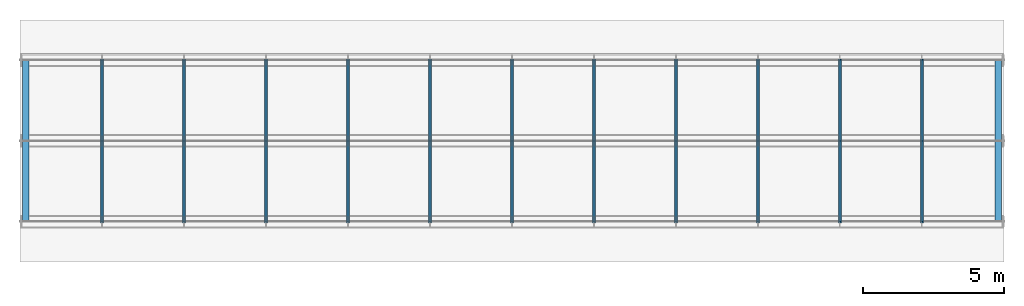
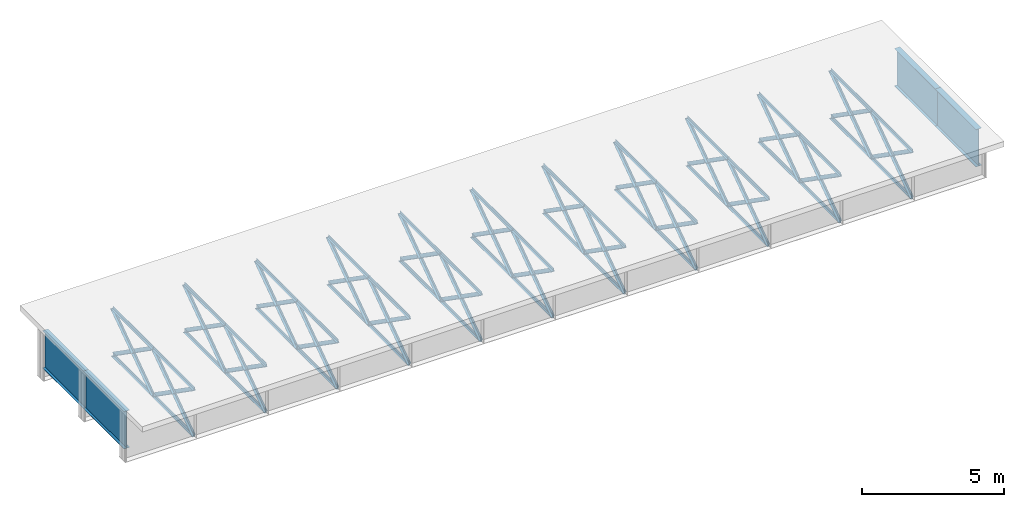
# One storey, part 1 of 11: 92 members.
"""IFC4 building model written with IfcOpenShell, lengths in metres."""

from ifc_helpers import new_model, si_unit, frame, origin, origin_with_axes, origin_2d_with_axis, place, context, subcontext, project, spatial, i_section, l_section, extrude, element, save


model = new_model("IFC4")

# Units and contexts
model_context = context("Model", 3, precision=1e-05, world=origin())
body_context = subcontext(model_context, "Body", "Model", "MODEL_VIEW")
ifc_project = project(units=[si_unit("LENGTHUNIT", "METRE"), si_unit("AREAUNIT", "SQUARE_METRE"), si_unit("VOLUMEUNIT", "CUBIC_METRE"), si_unit("PLANEANGLEUNIT", "RADIAN")], contexts=[model_context])

# Site, building, storey
site_placement = place(None, origin_with_axes())
site = spatial("IfcSite", under=ifc_project, at=site_placement, Name="Default Site")
building_placement = place(site_placement, origin_with_axes())
building = spatial("IfcBuilding", under=site, at=building_placement, Name="Bridge Structure")
storey_placement = place(building_placement, origin_with_axes())
storey = spatial("IfcBuildingStorey", under=building, at=storey_placement, Name="Superstructure")

# Members
for number, where, z_axis, x_axis, name in (
    (1, (0.2, -2.875, 0.2009999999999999), (0.0, 1.0, 0.0), (-1.0, 0.0, 0.0), "End Diaphragm"),
    (2, (0.2, 0.0, 0.2009999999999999), (0.0, 1.0, 0.0), (-1.0, 0.0, 0.0), "End Diaphragm"),
):
    element("IfcMember", number, at=place(storey_placement, frame(where, z_axis=z_axis, x_axis=x_axis)), inside=storey, Name=name, context=body_context, shape_type="SweptSolid", body=[
        extrude(i_section(OverallWidth=0.225, OverallDepth=1.608, WebThickness=0.018000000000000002, FlangeThickness=0.012, at=origin_2d_with_axis()), origin_with_axes(), (0.0, 0.0, 1.0), 2.875),
    ])
for number, where, z_axis, x_axis, name in (
    (3, (2.9166666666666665, -2.875, 1.005), (0.0, 0.8195665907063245, -0.5729839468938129), (-1.0, 0.0, 0.0), "Diagonal Brace"),
    (4, (2.9166666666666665, -2.875, -1.005), (0.0, 0.8195665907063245, 0.5729839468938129), (-1.0, 0.0, 0.0), "Diagonal Brace"),
):
    element("IfcMember", number, at=place(storey_placement, frame(where, z_axis=z_axis, x_axis=x_axis)), inside=storey, Name=name, context=body_context, shape_type="SweptSolid", body=[
        extrude(l_section(Depth=0.15, Width=0.1, Thickness=0.008, at=origin_2d_with_axis()), origin_with_axes(), (0.0, 0.0, 1.0), 3.5079516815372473),
    ])
for number, where, z_axis, x_axis, name in (
    (5, (2.9166666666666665, -2.875, -1.005), (0.0, 1.0, 0.0), (-1.0, 0.0, 0.0), "Bottom Chord"),
    (6, (2.9166666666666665, -2.875, 1.005), (0.0, 1.0, 0.0), (-1.0, 0.0, 0.0), "Top Chord"),
):
    element("IfcMember", number, at=place(storey_placement, frame(where, z_axis=z_axis, x_axis=x_axis)), inside=storey, Name=name, context=body_context, shape_type="SweptSolid", body=[
        extrude(l_section(Depth=0.13, Width=0.08, Thickness=0.008, at=origin_2d_with_axis()), origin_with_axes(), (0.0, 0.0, 1.0), 2.875),
    ])
for number, where, z_axis, x_axis, name in (
    (7, (2.9166666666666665, 0.0, 1.005), (0.0, 0.8195665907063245, -0.5729839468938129), (-1.0, 0.0, 0.0), "Diagonal Brace"),
    (8, (2.9166666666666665, 0.0, -1.005), (0.0, 0.8195665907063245, 0.5729839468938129), (-1.0, 0.0, 0.0), "Diagonal Brace"),
):
    element("IfcMember", number, at=place(storey_placement, frame(where, z_axis=z_axis, x_axis=x_axis)), inside=storey, Name=name, context=body_context, shape_type="SweptSolid", body=[
        extrude(l_section(Depth=0.15, Width=0.1, Thickness=0.008, at=origin_2d_with_axis()), origin_with_axes(), (0.0, 0.0, 1.0), 3.5079516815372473),
    ])
for number, where, z_axis, x_axis, name in (
    (9, (2.9166666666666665, 0.0, -1.005), (0.0, 1.0, 0.0), (-1.0, 0.0, 0.0), "Bottom Chord"),
    (10, (2.9166666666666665, 0.0, 1.005), (0.0, 1.0, 0.0), (-1.0, 0.0, 0.0), "Top Chord"),
):
    element("IfcMember", number, at=place(storey_placement, frame(where, z_axis=z_axis, x_axis=x_axis)), inside=storey, Name=name, context=body_context, shape_type="SweptSolid", body=[
        extrude(l_section(Depth=0.13, Width=0.08, Thickness=0.008, at=origin_2d_with_axis()), origin_with_axes(), (0.0, 0.0, 1.0), 2.875),
    ])
for number, where, z_axis, x_axis, name in (
    (11, (5.833333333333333, -2.875, 1.005), (0.0, 0.8195665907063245, -0.5729839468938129), (-1.0, 0.0, 0.0), "Diagonal Brace"),
    (12, (5.833333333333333, -2.875, -1.005), (0.0, 0.8195665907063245, 0.5729839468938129), (-1.0, 0.0, 0.0), "Diagonal Brace"),
):
    element("IfcMember", number, at=place(storey_placement, frame(where, z_axis=z_axis, x_axis=x_axis)), inside=storey, Name=name, context=body_context, shape_type="SweptSolid", body=[
        extrude(l_section(Depth=0.15, Width=0.1, Thickness=0.008, at=origin_2d_with_axis()), origin_with_axes(), (0.0, 0.0, 1.0), 3.5079516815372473),
    ])
for number, where, z_axis, x_axis, name in (
    (13, (5.833333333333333, -2.875, -1.005), (0.0, 1.0, 0.0), (-1.0, 0.0, 0.0), "Bottom Chord"),
    (14, (5.833333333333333, -2.875, 1.005), (0.0, 1.0, 0.0), (-1.0, 0.0, 0.0), "Top Chord"),
):
    element("IfcMember", number, at=place(storey_placement, frame(where, z_axis=z_axis, x_axis=x_axis)), inside=storey, Name=name, context=body_context, shape_type="SweptSolid", body=[
        extrude(l_section(Depth=0.13, Width=0.08, Thickness=0.008, at=origin_2d_with_axis()), origin_with_axes(), (0.0, 0.0, 1.0), 2.875),
    ])
for number, where, z_axis, x_axis, name in (
    (15, (5.833333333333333, 0.0, 1.005), (0.0, 0.8195665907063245, -0.5729839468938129), (-1.0, 0.0, 0.0), "Diagonal Brace"),
    (16, (5.833333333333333, 0.0, -1.005), (0.0, 0.8195665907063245, 0.5729839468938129), (-1.0, 0.0, 0.0), "Diagonal Brace"),
):
    element("IfcMember", number, at=place(storey_placement, frame(where, z_axis=z_axis, x_axis=x_axis)), inside=storey, Name=name, context=body_context, shape_type="SweptSolid", body=[
        extrude(l_section(Depth=0.15, Width=0.1, Thickness=0.008, at=origin_2d_with_axis()), origin_with_axes(), (0.0, 0.0, 1.0), 3.5079516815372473),
    ])
for number, where, z_axis, x_axis, name in (
    (17, (5.833333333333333, 0.0, -1.005), (0.0, 1.0, 0.0), (-1.0, 0.0, 0.0), "Bottom Chord"),
    (18, (5.833333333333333, 0.0, 1.005), (0.0, 1.0, 0.0), (-1.0, 0.0, 0.0), "Top Chord"),
):
    element("IfcMember", number, at=place(storey_placement, frame(where, z_axis=z_axis, x_axis=x_axis)), inside=storey, Name=name, context=body_context, shape_type="SweptSolid", body=[
        extrude(l_section(Depth=0.13, Width=0.08, Thickness=0.008, at=origin_2d_with_axis()), origin_with_axes(), (0.0, 0.0, 1.0), 2.875),
    ])
for number, where, z_axis, x_axis, name in (
    (19, (8.75, -2.875, 1.005), (0.0, 0.8195665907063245, -0.5729839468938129), (-1.0, 0.0, 0.0), "Diagonal Brace"),
    (20, (8.75, -2.875, -1.005), (0.0, 0.8195665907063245, 0.5729839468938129), (-1.0, 0.0, 0.0), "Diagonal Brace"),
):
    element("IfcMember", number, at=place(storey_placement, frame(where, z_axis=z_axis, x_axis=x_axis)), inside=storey, Name=name, context=body_context, shape_type="SweptSolid", body=[
        extrude(l_section(Depth=0.15, Width=0.1, Thickness=0.008, at=origin_2d_with_axis()), origin_with_axes(), (0.0, 0.0, 1.0), 3.5079516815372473),
    ])
for number, where, z_axis, x_axis, name in (
    (21, (8.75, -2.875, -1.005), (0.0, 1.0, 0.0), (-1.0, 0.0, 0.0), "Bottom Chord"),
    (22, (8.75, -2.875, 1.005), (0.0, 1.0, 0.0), (-1.0, 0.0, 0.0), "Top Chord"),
):
    element("IfcMember", number, at=place(storey_placement, frame(where, z_axis=z_axis, x_axis=x_axis)), inside=storey, Name=name, context=body_context, shape_type="SweptSolid", body=[
        extrude(l_section(Depth=0.13, Width=0.08, Thickness=0.008, at=origin_2d_with_axis()), origin_with_axes(), (0.0, 0.0, 1.0), 2.875),
    ])
for number, where, z_axis, x_axis, name in (
    (23, (8.75, 0.0, 1.005), (0.0, 0.8195665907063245, -0.5729839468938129), (-1.0, 0.0, 0.0), "Diagonal Brace"),
    (24, (8.75, 0.0, -1.005), (0.0, 0.8195665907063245, 0.5729839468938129), (-1.0, 0.0, 0.0), "Diagonal Brace"),
):
    element("IfcMember", number, at=place(storey_placement, frame(where, z_axis=z_axis, x_axis=x_axis)), inside=storey, Name=name, context=body_context, shape_type="SweptSolid", body=[
        extrude(l_section(Depth=0.15, Width=0.1, Thickness=0.008, at=origin_2d_with_axis()), origin_with_axes(), (0.0, 0.0, 1.0), 3.5079516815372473),
    ])
for number, where, z_axis, x_axis, name in (
    (25, (8.75, 0.0, -1.005), (0.0, 1.0, 0.0), (-1.0, 0.0, 0.0), "Bottom Chord"),
    (26, (8.75, 0.0, 1.005), (0.0, 1.0, 0.0), (-1.0, 0.0, 0.0), "Top Chord"),
):
    element("IfcMember", number, at=place(storey_placement, frame(where, z_axis=z_axis, x_axis=x_axis)), inside=storey, Name=name, context=body_context, shape_type="SweptSolid", body=[
        extrude(l_section(Depth=0.13, Width=0.08, Thickness=0.008, at=origin_2d_with_axis()), origin_with_axes(), (0.0, 0.0, 1.0), 2.875),
    ])
for number, where, z_axis, x_axis, name in (
    (27, (11.666666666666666, -2.875, 1.005), (0.0, 0.8195665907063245, -0.5729839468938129), (-1.0, 0.0, 0.0), "Diagonal Brace"),
    (28, (11.666666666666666, -2.875, -1.005), (0.0, 0.8195665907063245, 0.5729839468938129), (-1.0, 0.0, 0.0), "Diagonal Brace"),
):
    element("IfcMember", number, at=place(storey_placement, frame(where, z_axis=z_axis, x_axis=x_axis)), inside=storey, Name=name, context=body_context, shape_type="SweptSolid", body=[
        extrude(l_section(Depth=0.15, Width=0.1, Thickness=0.008, at=origin_2d_with_axis()), origin_with_axes(), (0.0, 0.0, 1.0), 3.5079516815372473),
    ])
for number, where, z_axis, x_axis, name in (
    (29, (11.666666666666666, -2.875, -1.005), (0.0, 1.0, 0.0), (-1.0, 0.0, 0.0), "Bottom Chord"),
    (30, (11.666666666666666, -2.875, 1.005), (0.0, 1.0, 0.0), (-1.0, 0.0, 0.0), "Top Chord"),
):
    element("IfcMember", number, at=place(storey_placement, frame(where, z_axis=z_axis, x_axis=x_axis)), inside=storey, Name=name, context=body_context, shape_type="SweptSolid", body=[
        extrude(l_section(Depth=0.13, Width=0.08, Thickness=0.008, at=origin_2d_with_axis()), origin_with_axes(), (0.0, 0.0, 1.0), 2.875),
    ])
for number, where, z_axis, x_axis, name in (
    (31, (11.666666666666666, 0.0, 1.005), (0.0, 0.8195665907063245, -0.5729839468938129), (-1.0, 0.0, 0.0), "Diagonal Brace"),
    (32, (11.666666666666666, 0.0, -1.005), (0.0, 0.8195665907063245, 0.5729839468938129), (-1.0, 0.0, 0.0), "Diagonal Brace"),
):
    element("IfcMember", number, at=place(storey_placement, frame(where, z_axis=z_axis, x_axis=x_axis)), inside=storey, Name=name, context=body_context, shape_type="SweptSolid", body=[
        extrude(l_section(Depth=0.15, Width=0.1, Thickness=0.008, at=origin_2d_with_axis()), origin_with_axes(), (0.0, 0.0, 1.0), 3.5079516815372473),
    ])
for number, where, z_axis, x_axis, name in (
    (33, (11.666666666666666, 0.0, -1.005), (0.0, 1.0, 0.0), (-1.0, 0.0, 0.0), "Bottom Chord"),
    (34, (11.666666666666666, 0.0, 1.005), (0.0, 1.0, 0.0), (-1.0, 0.0, 0.0), "Top Chord"),
):
    element("IfcMember", number, at=place(storey_placement, frame(where, z_axis=z_axis, x_axis=x_axis)), inside=storey, Name=name, context=body_context, shape_type="SweptSolid", body=[
        extrude(l_section(Depth=0.13, Width=0.08, Thickness=0.008, at=origin_2d_with_axis()), origin_with_axes(), (0.0, 0.0, 1.0), 2.875),
    ])
for number, where, z_axis, x_axis, name in (
    (35, (14.583333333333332, -2.875, 1.005), (0.0, 0.8195665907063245, -0.5729839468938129), (-1.0, 0.0, 0.0), "Diagonal Brace"),
    (36, (14.583333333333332, -2.875, -1.005), (0.0, 0.8195665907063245, 0.5729839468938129), (-1.0, 0.0, 0.0), "Diagonal Brace"),
):
    element("IfcMember", number, at=place(storey_placement, frame(where, z_axis=z_axis, x_axis=x_axis)), inside=storey, Name=name, context=body_context, shape_type="SweptSolid", body=[
        extrude(l_section(Depth=0.15, Width=0.1, Thickness=0.008, at=origin_2d_with_axis()), origin_with_axes(), (0.0, 0.0, 1.0), 3.5079516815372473),
    ])
for number, where, z_axis, x_axis, name in (
    (37, (14.583333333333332, -2.875, -1.005), (0.0, 1.0, 0.0), (-1.0, 0.0, 0.0), "Bottom Chord"),
    (38, (14.583333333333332, -2.875, 1.005), (0.0, 1.0, 0.0), (-1.0, 0.0, 0.0), "Top Chord"),
):
    element("IfcMember", number, at=place(storey_placement, frame(where, z_axis=z_axis, x_axis=x_axis)), inside=storey, Name=name, context=body_context, shape_type="SweptSolid", body=[
        extrude(l_section(Depth=0.13, Width=0.08, Thickness=0.008, at=origin_2d_with_axis()), origin_with_axes(), (0.0, 0.0, 1.0), 2.875),
    ])
for number, where, z_axis, x_axis, name in (
    (39, (14.583333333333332, 0.0, 1.005), (0.0, 0.8195665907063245, -0.5729839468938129), (-1.0, 0.0, 0.0), "Diagonal Brace"),
    (40, (14.583333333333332, 0.0, -1.005), (0.0, 0.8195665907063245, 0.5729839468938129), (-1.0, 0.0, 0.0), "Diagonal Brace"),
):
    element("IfcMember", number, at=place(storey_placement, frame(where, z_axis=z_axis, x_axis=x_axis)), inside=storey, Name=name, context=body_context, shape_type="SweptSolid", body=[
        extrude(l_section(Depth=0.15, Width=0.1, Thickness=0.008, at=origin_2d_with_axis()), origin_with_axes(), (0.0, 0.0, 1.0), 3.5079516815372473),
    ])
for number, where, z_axis, x_axis, name in (
    (41, (14.583333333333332, 0.0, -1.005), (0.0, 1.0, 0.0), (-1.0, 0.0, 0.0), "Bottom Chord"),
    (42, (14.583333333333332, 0.0, 1.005), (0.0, 1.0, 0.0), (-1.0, 0.0, 0.0), "Top Chord"),
):
    element("IfcMember", number, at=place(storey_placement, frame(where, z_axis=z_axis, x_axis=x_axis)), inside=storey, Name=name, context=body_context, shape_type="SweptSolid", body=[
        extrude(l_section(Depth=0.13, Width=0.08, Thickness=0.008, at=origin_2d_with_axis()), origin_with_axes(), (0.0, 0.0, 1.0), 2.875),
    ])
for number, where, z_axis, x_axis, name in (
    (43, (17.5, -2.875, 1.005), (0.0, 0.8195665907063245, -0.5729839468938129), (-1.0, 0.0, 0.0), "Diagonal Brace"),
    (44, (17.5, -2.875, -1.005), (0.0, 0.8195665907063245, 0.5729839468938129), (-1.0, 0.0, 0.0), "Diagonal Brace"),
):
    element("IfcMember", number, at=place(storey_placement, frame(where, z_axis=z_axis, x_axis=x_axis)), inside=storey, Name=name, context=body_context, shape_type="SweptSolid", body=[
        extrude(l_section(Depth=0.15, Width=0.1, Thickness=0.008, at=origin_2d_with_axis()), origin_with_axes(), (0.0, 0.0, 1.0), 3.5079516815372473),
    ])
for number, where, z_axis, x_axis, name in (
    (45, (17.5, -2.875, -1.005), (0.0, 1.0, 0.0), (-1.0, 0.0, 0.0), "Bottom Chord"),
    (46, (17.5, -2.875, 1.005), (0.0, 1.0, 0.0), (-1.0, 0.0, 0.0), "Top Chord"),
):
    element("IfcMember", number, at=place(storey_placement, frame(where, z_axis=z_axis, x_axis=x_axis)), inside=storey, Name=name, context=body_context, shape_type="SweptSolid", body=[
        extrude(l_section(Depth=0.13, Width=0.08, Thickness=0.008, at=origin_2d_with_axis()), origin_with_axes(), (0.0, 0.0, 1.0), 2.875),
    ])
for number, where, z_axis, x_axis, name in (
    (47, (17.5, 0.0, 1.005), (0.0, 0.8195665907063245, -0.5729839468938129), (-1.0, 0.0, 0.0), "Diagonal Brace"),
    (48, (17.5, 0.0, -1.005), (0.0, 0.8195665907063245, 0.5729839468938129), (-1.0, 0.0, 0.0), "Diagonal Brace"),
):
    element("IfcMember", number, at=place(storey_placement, frame(where, z_axis=z_axis, x_axis=x_axis)), inside=storey, Name=name, context=body_context, shape_type="SweptSolid", body=[
        extrude(l_section(Depth=0.15, Width=0.1, Thickness=0.008, at=origin_2d_with_axis()), origin_with_axes(), (0.0, 0.0, 1.0), 3.5079516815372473),
    ])
for number, where, z_axis, x_axis, name in (
    (49, (17.5, 0.0, -1.005), (0.0, 1.0, 0.0), (-1.0, 0.0, 0.0), "Bottom Chord"),
    (50, (17.5, 0.0, 1.005), (0.0, 1.0, 0.0), (-1.0, 0.0, 0.0), "Top Chord"),
):
    element("IfcMember", number, at=place(storey_placement, frame(where, z_axis=z_axis, x_axis=x_axis)), inside=storey, Name=name, context=body_context, shape_type="SweptSolid", body=[
        extrude(l_section(Depth=0.13, Width=0.08, Thickness=0.008, at=origin_2d_with_axis()), origin_with_axes(), (0.0, 0.0, 1.0), 2.875),
    ])
for number, where, z_axis, x_axis, name in (
    (51, (20.416666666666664, -2.875, 1.005), (0.0, 0.8195665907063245, -0.5729839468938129), (-1.0, 0.0, 0.0), "Diagonal Brace"),
    (52, (20.416666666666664, -2.875, -1.005), (0.0, 0.8195665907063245, 0.5729839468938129), (-1.0, 0.0, 0.0), "Diagonal Brace"),
):
    element("IfcMember", number, at=place(storey_placement, frame(where, z_axis=z_axis, x_axis=x_axis)), inside=storey, Name=name, context=body_context, shape_type="SweptSolid", body=[
        extrude(l_section(Depth=0.15, Width=0.1, Thickness=0.008, at=origin_2d_with_axis()), origin_with_axes(), (0.0, 0.0, 1.0), 3.5079516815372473),
    ])
for number, where, z_axis, x_axis, name in (
    (53, (20.416666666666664, -2.875, -1.005), (0.0, 1.0, 0.0), (-1.0, 0.0, 0.0), "Bottom Chord"),
    (54, (20.416666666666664, -2.875, 1.005), (0.0, 1.0, 0.0), (-1.0, 0.0, 0.0), "Top Chord"),
):
    element("IfcMember", number, at=place(storey_placement, frame(where, z_axis=z_axis, x_axis=x_axis)), inside=storey, Name=name, context=body_context, shape_type="SweptSolid", body=[
        extrude(l_section(Depth=0.13, Width=0.08, Thickness=0.008, at=origin_2d_with_axis()), origin_with_axes(), (0.0, 0.0, 1.0), 2.875),
    ])
for number, where, z_axis, x_axis, name in (
    (55, (20.416666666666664, 0.0, 1.005), (0.0, 0.8195665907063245, -0.5729839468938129), (-1.0, 0.0, 0.0), "Diagonal Brace"),
    (56, (20.416666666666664, 0.0, -1.005), (0.0, 0.8195665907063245, 0.5729839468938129), (-1.0, 0.0, 0.0), "Diagonal Brace"),
):
    element("IfcMember", number, at=place(storey_placement, frame(where, z_axis=z_axis, x_axis=x_axis)), inside=storey, Name=name, context=body_context, shape_type="SweptSolid", body=[
        extrude(l_section(Depth=0.15, Width=0.1, Thickness=0.008, at=origin_2d_with_axis()), origin_with_axes(), (0.0, 0.0, 1.0), 3.5079516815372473),
    ])
for number, where, z_axis, x_axis, name in (
    (57, (20.416666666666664, 0.0, -1.005), (0.0, 1.0, 0.0), (-1.0, 0.0, 0.0), "Bottom Chord"),
    (58, (20.416666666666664, 0.0, 1.005), (0.0, 1.0, 0.0), (-1.0, 0.0, 0.0), "Top Chord"),
):
    element("IfcMember", number, at=place(storey_placement, frame(where, z_axis=z_axis, x_axis=x_axis)), inside=storey, Name=name, context=body_context, shape_type="SweptSolid", body=[
        extrude(l_section(Depth=0.13, Width=0.08, Thickness=0.008, at=origin_2d_with_axis()), origin_with_axes(), (0.0, 0.0, 1.0), 2.875),
    ])
for number, where, z_axis, x_axis, name in (
    (59, (23.333333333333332, -2.875, 1.005), (0.0, 0.8195665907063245, -0.5729839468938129), (-1.0, 0.0, 0.0), "Diagonal Brace"),
    (60, (23.333333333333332, -2.875, -1.005), (0.0, 0.8195665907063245, 0.5729839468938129), (-1.0, 0.0, 0.0), "Diagonal Brace"),
):
    element("IfcMember", number, at=place(storey_placement, frame(where, z_axis=z_axis, x_axis=x_axis)), inside=storey, Name=name, context=body_context, shape_type="SweptSolid", body=[
        extrude(l_section(Depth=0.15, Width=0.1, Thickness=0.008, at=origin_2d_with_axis()), origin_with_axes(), (0.0, 0.0, 1.0), 3.5079516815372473),
    ])
for number, where, z_axis, x_axis, name in (
    (61, (23.333333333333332, -2.875, -1.005), (0.0, 1.0, 0.0), (-1.0, 0.0, 0.0), "Bottom Chord"),
    (62, (23.333333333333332, -2.875, 1.005), (0.0, 1.0, 0.0), (-1.0, 0.0, 0.0), "Top Chord"),
):
    element("IfcMember", number, at=place(storey_placement, frame(where, z_axis=z_axis, x_axis=x_axis)), inside=storey, Name=name, context=body_context, shape_type="SweptSolid", body=[
        extrude(l_section(Depth=0.13, Width=0.08, Thickness=0.008, at=origin_2d_with_axis()), origin_with_axes(), (0.0, 0.0, 1.0), 2.875),
    ])
for number, where, z_axis, x_axis, name in (
    (63, (23.333333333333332, 0.0, 1.005), (0.0, 0.8195665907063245, -0.5729839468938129), (-1.0, 0.0, 0.0), "Diagonal Brace"),
    (64, (23.333333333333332, 0.0, -1.005), (0.0, 0.8195665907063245, 0.5729839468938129), (-1.0, 0.0, 0.0), "Diagonal Brace"),
):
    element("IfcMember", number, at=place(storey_placement, frame(where, z_axis=z_axis, x_axis=x_axis)), inside=storey, Name=name, context=body_context, shape_type="SweptSolid", body=[
        extrude(l_section(Depth=0.15, Width=0.1, Thickness=0.008, at=origin_2d_with_axis()), origin_with_axes(), (0.0, 0.0, 1.0), 3.5079516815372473),
    ])
for number, where, z_axis, x_axis, name in (
    (65, (23.333333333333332, 0.0, -1.005), (0.0, 1.0, 0.0), (-1.0, 0.0, 0.0), "Bottom Chord"),
    (66, (23.333333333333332, 0.0, 1.005), (0.0, 1.0, 0.0), (-1.0, 0.0, 0.0), "Top Chord"),
):
    element("IfcMember", number, at=place(storey_placement, frame(where, z_axis=z_axis, x_axis=x_axis)), inside=storey, Name=name, context=body_context, shape_type="SweptSolid", body=[
        extrude(l_section(Depth=0.13, Width=0.08, Thickness=0.008, at=origin_2d_with_axis()), origin_with_axes(), (0.0, 0.0, 1.0), 2.875),
    ])
for number, where, z_axis, x_axis, name in (
    (67, (26.25, -2.875, 1.005), (0.0, 0.8195665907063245, -0.5729839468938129), (-1.0, 0.0, 0.0), "Diagonal Brace"),
    (68, (26.25, -2.875, -1.005), (0.0, 0.8195665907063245, 0.5729839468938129), (-1.0, 0.0, 0.0), "Diagonal Brace"),
):
    element("IfcMember", number, at=place(storey_placement, frame(where, z_axis=z_axis, x_axis=x_axis)), inside=storey, Name=name, context=body_context, shape_type="SweptSolid", body=[
        extrude(l_section(Depth=0.15, Width=0.1, Thickness=0.008, at=origin_2d_with_axis()), origin_with_axes(), (0.0, 0.0, 1.0), 3.5079516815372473),
    ])
for number, where, z_axis, x_axis, name in (
    (69, (26.25, -2.875, -1.005), (0.0, 1.0, 0.0), (-1.0, 0.0, 0.0), "Bottom Chord"),
    (70, (26.25, -2.875, 1.005), (0.0, 1.0, 0.0), (-1.0, 0.0, 0.0), "Top Chord"),
):
    element("IfcMember", number, at=place(storey_placement, frame(where, z_axis=z_axis, x_axis=x_axis)), inside=storey, Name=name, context=body_context, shape_type="SweptSolid", body=[
        extrude(l_section(Depth=0.13, Width=0.08, Thickness=0.008, at=origin_2d_with_axis()), origin_with_axes(), (0.0, 0.0, 1.0), 2.875),
    ])
for number, where, z_axis, x_axis, name in (
    (71, (26.25, 0.0, 1.005), (0.0, 0.8195665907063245, -0.5729839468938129), (-1.0, 0.0, 0.0), "Diagonal Brace"),
    (72, (26.25, 0.0, -1.005), (0.0, 0.8195665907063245, 0.5729839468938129), (-1.0, 0.0, 0.0), "Diagonal Brace"),
):
    element("IfcMember", number, at=place(storey_placement, frame(where, z_axis=z_axis, x_axis=x_axis)), inside=storey, Name=name, context=body_context, shape_type="SweptSolid", body=[
        extrude(l_section(Depth=0.15, Width=0.1, Thickness=0.008, at=origin_2d_with_axis()), origin_with_axes(), (0.0, 0.0, 1.0), 3.5079516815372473),
    ])
for number, where, z_axis, x_axis, name in (
    (73, (26.25, 0.0, -1.005), (0.0, 1.0, 0.0), (-1.0, 0.0, 0.0), "Bottom Chord"),
    (74, (26.25, 0.0, 1.005), (0.0, 1.0, 0.0), (-1.0, 0.0, 0.0), "Top Chord"),
):
    element("IfcMember", number, at=place(storey_placement, frame(where, z_axis=z_axis, x_axis=x_axis)), inside=storey, Name=name, context=body_context, shape_type="SweptSolid", body=[
        extrude(l_section(Depth=0.13, Width=0.08, Thickness=0.008, at=origin_2d_with_axis()), origin_with_axes(), (0.0, 0.0, 1.0), 2.875),
    ])
for number, where, z_axis, x_axis, name in (
    (75, (29.166666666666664, -2.875, 1.005), (0.0, 0.8195665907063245, -0.5729839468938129), (-1.0, 0.0, 0.0), "Diagonal Brace"),
    (76, (29.166666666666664, -2.875, -1.005), (0.0, 0.8195665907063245, 0.5729839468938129), (-1.0, 0.0, 0.0), "Diagonal Brace"),
):
    element("IfcMember", number, at=place(storey_placement, frame(where, z_axis=z_axis, x_axis=x_axis)), inside=storey, Name=name, context=body_context, shape_type="SweptSolid", body=[
        extrude(l_section(Depth=0.15, Width=0.1, Thickness=0.008, at=origin_2d_with_axis()), origin_with_axes(), (0.0, 0.0, 1.0), 3.5079516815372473),
    ])
for number, where, z_axis, x_axis, name in (
    (77, (29.166666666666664, -2.875, -1.005), (0.0, 1.0, 0.0), (-1.0, 0.0, 0.0), "Bottom Chord"),
    (78, (29.166666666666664, -2.875, 1.005), (0.0, 1.0, 0.0), (-1.0, 0.0, 0.0), "Top Chord"),
):
    element("IfcMember", number, at=place(storey_placement, frame(where, z_axis=z_axis, x_axis=x_axis)), inside=storey, Name=name, context=body_context, shape_type="SweptSolid", body=[
        extrude(l_section(Depth=0.13, Width=0.08, Thickness=0.008, at=origin_2d_with_axis()), origin_with_axes(), (0.0, 0.0, 1.0), 2.875),
    ])
for number, where, z_axis, x_axis, name in (
    (79, (29.166666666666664, 0.0, 1.005), (0.0, 0.8195665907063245, -0.5729839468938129), (-1.0, 0.0, 0.0), "Diagonal Brace"),
    (80, (29.166666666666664, 0.0, -1.005), (0.0, 0.8195665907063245, 0.5729839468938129), (-1.0, 0.0, 0.0), "Diagonal Brace"),
):
    element("IfcMember", number, at=place(storey_placement, frame(where, z_axis=z_axis, x_axis=x_axis)), inside=storey, Name=name, context=body_context, shape_type="SweptSolid", body=[
        extrude(l_section(Depth=0.15, Width=0.1, Thickness=0.008, at=origin_2d_with_axis()), origin_with_axes(), (0.0, 0.0, 1.0), 3.5079516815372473),
    ])
for number, where, z_axis, x_axis, name in (
    (81, (29.166666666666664, 0.0, -1.005), (0.0, 1.0, 0.0), (-1.0, 0.0, 0.0), "Bottom Chord"),
    (82, (29.166666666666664, 0.0, 1.005), (0.0, 1.0, 0.0), (-1.0, 0.0, 0.0), "Top Chord"),
):
    element("IfcMember", number, at=place(storey_placement, frame(where, z_axis=z_axis, x_axis=x_axis)), inside=storey, Name=name, context=body_context, shape_type="SweptSolid", body=[
        extrude(l_section(Depth=0.13, Width=0.08, Thickness=0.008, at=origin_2d_with_axis()), origin_with_axes(), (0.0, 0.0, 1.0), 2.875),
    ])
for number, where, z_axis, x_axis, name in (
    (83, (32.083333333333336, -2.875, 1.005), (0.0, 0.8195665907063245, -0.5729839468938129), (-1.0, 0.0, 0.0), "Diagonal Brace"),
    (84, (32.083333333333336, -2.875, -1.005), (0.0, 0.8195665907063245, 0.5729839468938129), (-1.0, 0.0, 0.0), "Diagonal Brace"),
):
    element("IfcMember", number, at=place(storey_placement, frame(where, z_axis=z_axis, x_axis=x_axis)), inside=storey, Name=name, context=body_context, shape_type="SweptSolid", body=[
        extrude(l_section(Depth=0.15, Width=0.1, Thickness=0.008, at=origin_2d_with_axis()), origin_with_axes(), (0.0, 0.0, 1.0), 3.5079516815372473),
    ])
for number, where, z_axis, x_axis, name in (
    (85, (32.083333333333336, -2.875, -1.005), (0.0, 1.0, 0.0), (-1.0, 0.0, 0.0), "Bottom Chord"),
    (86, (32.083333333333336, -2.875, 1.005), (0.0, 1.0, 0.0), (-1.0, 0.0, 0.0), "Top Chord"),
):
    element("IfcMember", number, at=place(storey_placement, frame(where, z_axis=z_axis, x_axis=x_axis)), inside=storey, Name=name, context=body_context, shape_type="SweptSolid", body=[
        extrude(l_section(Depth=0.13, Width=0.08, Thickness=0.008, at=origin_2d_with_axis()), origin_with_axes(), (0.0, 0.0, 1.0), 2.875),
    ])
for number, where, z_axis, x_axis, name in (
    (87, (32.083333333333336, 0.0, 1.005), (0.0, 0.8195665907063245, -0.5729839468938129), (-1.0, 0.0, 0.0), "Diagonal Brace"),
    (88, (32.083333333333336, 0.0, -1.005), (0.0, 0.8195665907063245, 0.5729839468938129), (-1.0, 0.0, 0.0), "Diagonal Brace"),
):
    element("IfcMember", number, at=place(storey_placement, frame(where, z_axis=z_axis, x_axis=x_axis)), inside=storey, Name=name, context=body_context, shape_type="SweptSolid", body=[
        extrude(l_section(Depth=0.15, Width=0.1, Thickness=0.008, at=origin_2d_with_axis()), origin_with_axes(), (0.0, 0.0, 1.0), 3.5079516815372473),
    ])
for number, where, z_axis, x_axis, name in (
    (89, (32.083333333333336, 0.0, -1.005), (0.0, 1.0, 0.0), (-1.0, 0.0, 0.0), "Bottom Chord"),
    (90, (32.083333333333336, 0.0, 1.005), (0.0, 1.0, 0.0), (-1.0, 0.0, 0.0), "Top Chord"),
):
    element("IfcMember", number, at=place(storey_placement, frame(where, z_axis=z_axis, x_axis=x_axis)), inside=storey, Name=name, context=body_context, shape_type="SweptSolid", body=[
        extrude(l_section(Depth=0.13, Width=0.08, Thickness=0.008, at=origin_2d_with_axis()), origin_with_axes(), (0.0, 0.0, 1.0), 2.875),
    ])
for number, where, z_axis, x_axis, name in (
    (91, (34.800000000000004, -2.875, 0.2009999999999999), (0.0, 1.0, 0.0), (-1.0, 0.0, 0.0), "End Diaphragm"),
    (92, (34.800000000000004, 0.0, 0.2009999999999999), (0.0, 1.0, 0.0), (-1.0, 0.0, 0.0), "End Diaphragm"),
):
    element("IfcMember", number, at=place(storey_placement, frame(where, z_axis=z_axis, x_axis=x_axis)), inside=storey, Name=name, context=body_context, shape_type="SweptSolid", body=[
        extrude(i_section(OverallWidth=0.225, OverallDepth=1.608, WebThickness=0.018000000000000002, FlangeThickness=0.012, at=origin_2d_with_axis()), origin_with_axes(), (0.0, 0.0, 1.0), 2.875),
    ])

save(model, "model.ifc")
